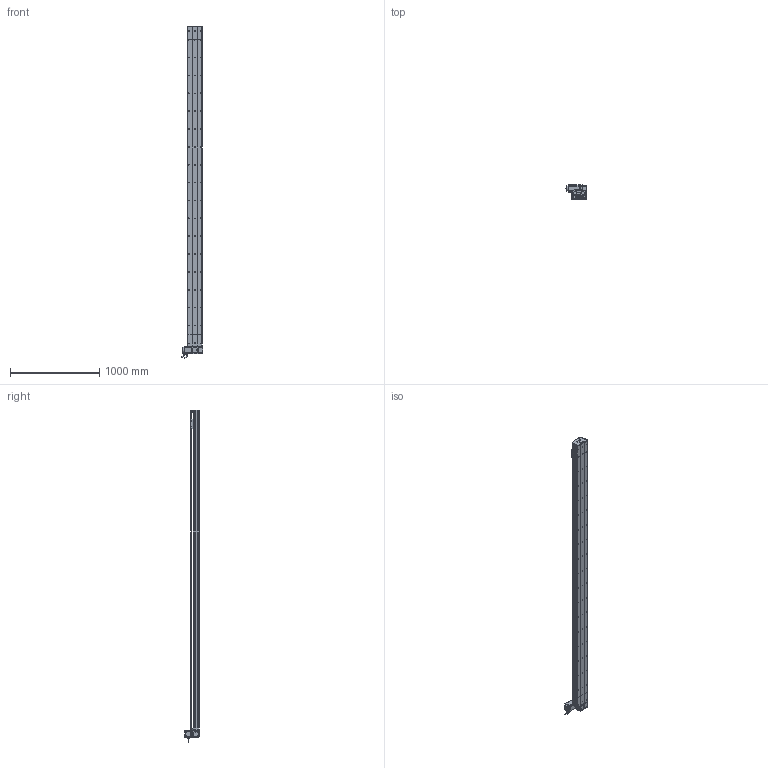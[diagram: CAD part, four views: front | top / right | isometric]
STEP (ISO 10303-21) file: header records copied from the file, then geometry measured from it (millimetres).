
FILE_DESCRIPTION (( 'STEP AP214' ), '1' );
FILE_NAME ('D17 TBN LT S3300.STEP', '2010-06-30T13:48:59', ( 'Conseil Régional Haute-Normandie' ), ( 'Conseil Régional Haute-Normandie' ), 'SwSTEP 2.0', 'SolidWorks 2010', '' );
FILE_SCHEMA (( 'AUTOMOTIVE_DESIGN' ));
Length unit declared in the file: millimetre
Products named in the file (40): Couroie tail D17B_Default; guide D17; cache arbre D17_Default; chariot D17 TBN; D17 TBN LT S3300; couvercle D17B course L3300_Default; Head LT D17B_Default; corpl head D17 _Default; course 3300 D17B_Default; Chariot D17 TBN; poulie head_Default; cache D17_Default; vis M5 L5_Default; plaque de  bout tail D17B_Default; Rail D17B; poulie tail_Default; tete d''axe poulie D17B; couvercle D17B head_Default; Vis M5 L16-2_Default; Conecteur2_Default; Renvoi LT_Default; Tail D17B+100_Default; codeur 90BLDC125-640; avant 90BLDC125A-640; corp tail D17B+100_Default; Moteur motionking 90BLDC125A-640; corps 90BLDC125A-640; vis M5 L16_Default; vis M5 L70_Default; Plaque racord D17_Default; Conecteur_Default; plaque de  bout head D17B LT_Default; couvercle D17B_Default; vis M5 L8 90°_Default; Arbre+rail head D17B; Couroie+ rail D17 Course 3300 ; corp D17B 3300_Default; couroie head D17_Default; vis M5 L12_Default; vis M5 L25_Default
Assembly tree (66 placements, depth 4):
  D17 TBN LT S3300
    Head LT D17B_Default
      vis M5 L12_Default  x8
      vis M5 L16_Default  x2
      couvercle D17B head_Default
      vis M5 L70_Default  x4
      couroie head D17_Default
      vis M5 L5_Default  x4
      Vis M5 L16-2_Default  x4
      vis M5 L25_Default  x2
      Moteur motionking 90BLDC125A-640
        corps 90BLDC125A-640
        Conecteur2_Default
        Conecteur_Default
        avant 90BLDC125A-640
        codeur 90BLDC125-640
      corpl head D17 _Default
      cache D17_Default  x2
      cache arbre D17_Default
      Arbre+rail head D17B
      poulie head_Default
      plaque de  bout head D17B LT_Default
      Renvoi LT_Default
      Plaque racord D17_Default
    course 3300 D17B_Default
      couvercle D17B course L3300_Default
      Couroie+ rail D17 Course 3300 
      corp D17B 3300_Default
    chariot D17 TBN
      Chariot D17 TBN
      guide D17  x2
    Tail D17B+100_Default
      vis M5 L8 90°_Default  x2
      vis M5 L12_Default  x4
      poulie tail_Default
      tete d''axe poulie D17B
      corp tail D17B+100_Default
      couvercle D17B_Default
      Rail D17B
      vis M5 L25_Default  x2
      Couroie tail D17B_Default
      plaque de  bout tail D17B_Default
Bounding box: 245.2 x 166.15 x 3717.95 mm (x, y, z)
Volume: 20869462.7 mm3; surface area: 6116846.7 mm2
Topology: 89 solids, 89 shells, 2679 faces, 6931 edges, 4466 vertices
Faces by surface type: plane 1537, cylinder 845, bspline 136, cone 80, torus 77, sphere 4
Entity records: 87621 total; most frequent: CARTESIAN_POINT 25865, ORIENTED_EDGE 11034, DIRECTION 10398, EDGE_CURVE 5517, VERTEX_POINT 3610, LINE 3572, VECTOR 3572, AXIS2_PLACEMENT_3D 3413
